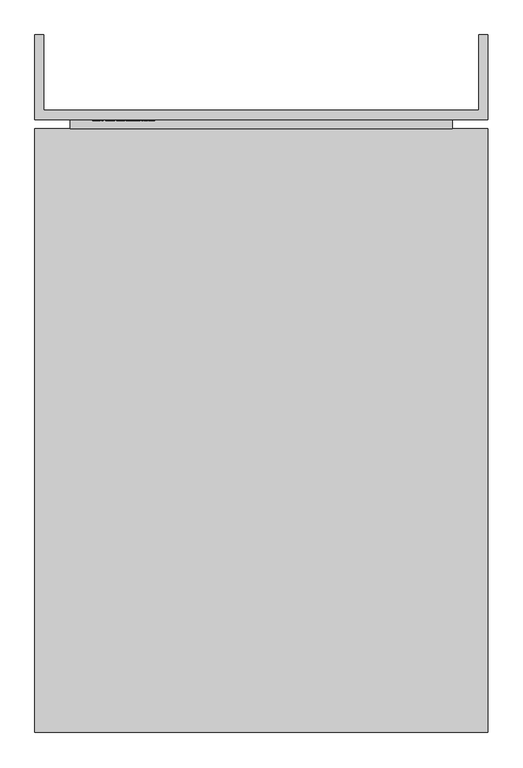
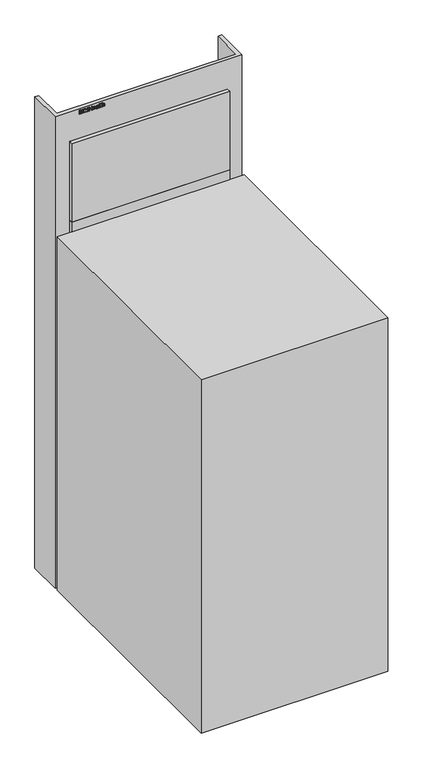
"""IFC4 building model written with IfcOpenShell, lengths in millimetres: furniture geometry, BIMHealth-Washstation-LOD2A-v1 : BIMHealth-Washstation-LOD2A-v1."""

from ifc_helpers import new_model, si_unit, frame, origin, origin_with_axes, place, context, project, spatial, polyline, outline, extrude, source, transform, mapped, element, save


def furniture_3d3374f5(model_context):
    return source(origin(), model_context, "Body", "SweptSolid", [
        extrude(outline(polyline([(2373.0972535, -785.4733843), (2373.0972535, -778.0166535), (2373.4361958, -774.8604035), (2374.4361958, -772.7185766), (2376.3208112, -771.2834804), (2378.9674458, -770.7041535), (2382.0299458, -771.5527112), (2383.8664843, -773.978192), (2385.6092727, -771.9805958), (2387.9097535, -771.3195381), (2390.4289843, -772.1055958), (2392.2102343, -774.2786728), (2392.7895612, -777.9589612), (2392.7895612, -785.4733843), (2373.0972535, -785.4733843)]), holes=[polyline([(2384.7895612, -783.0118458), (2390.3280227, -783.0118458), (2390.3280227, -778.8579997), (2390.0708112, -775.6945381), (2389.121292, -774.2762689), (2387.5155227, -773.7810766), (2385.9121574, -774.3123266), (2385.0010997, -775.8916535), (2384.7895612, -778.5166535), (2384.7895612, -783.0118458)]), polyline([(2375.558792, -783.0118458), (2382.3280227, -783.0118458), (2382.3280227, -778.2041535), (2381.9986958, -775.1632881), (2380.8568689, -773.6368458), (2378.9434074, -773.165692), (2376.1910035, -774.5911728), (2375.6549458, -776.1368458), (2375.558792, -777.9637689), (2375.558792, -783.0118458)])]), frame((0.0, -170.0, 0.0), z_axis=(0.0, 1.0, 0.0), x_axis=(0.0, 0.0, 1.0)), (0.0, 0.0, 1.0), 2.0),
        extrude(outline(polyline([(-764.5503074, -170.0), (-767.0118458, -170.0), (-767.0118458, -168.0), (-764.5503074, -168.0), (-764.5503074, -170.0)])), frame((0.0, 0.0, 2373.0972535), z_axis=(0.0, 0.0, 1.0), x_axis=(1.0, 0.0, 0.0)), (0.0, 0.0, 1.0), 19.6923077),
        extrude(outline(polyline([(2373.0972535, -759.6272304), (2373.0972535, -757.165692), (2390.3280227, -757.165692), (2373.0972535, -752.2137689), (2373.0972535, -748.8820381), (2390.3280227, -743.9349228), (2373.0972535, -743.9349228), (2373.0972535, -741.4733843), (2392.7895612, -741.4733843), (2392.7895612, -745.7089612), (2379.1501381, -749.6704997), (2376.0107151, -750.5503074), (2378.9097535, -751.3676151), (2392.7895612, -755.4060766), (2392.7895612, -759.6272304), (2373.0972535, -759.6272304)])), frame((0.0, -170.0, 0.0), z_axis=(0.0, 1.0, 0.0), x_axis=(0.0, 0.0, 1.0)), (0.0, 0.0, 1.0), 2.0),
        extrude(outline(polyline([(2373.0972535, -737.165692), (2373.0972535, -734.7041535), (2382.3280227, -734.7041535), (2382.3280227, -724.2426151), (2373.0972535, -724.2426151), (2373.0972535, -721.7810766), (2392.7895612, -721.7810766), (2392.7895612, -724.2426151), (2384.7895612, -724.2426151), (2384.7895612, -734.7041535), (2392.7895612, -734.7041535), (2392.7895612, -737.165692), (2373.0972535, -737.165692)])), frame((0.0, -170.0, 0.0), z_axis=(0.0, 1.0, 0.0), x_axis=(0.0, 0.0, 1.0)), (0.0, 0.0, 1.0), 2.0),
        extrude(outline(polyline([(2377.4049458, -707.6560766), (2375.7655227, -709.2426151), (2375.2510997, -711.6560766), (2376.3616766, -714.8267497), (2379.558792, -716.2426151), (2380.2222535, -705.165692), (2385.8616766, -707.0334804), (2387.8664843, -711.8435766), (2385.8568689, -716.7954997), (2380.2078304, -718.7041535), (2374.7390804, -716.8147304), (2372.7895612, -711.7041535), (2373.9193689, -707.4998266), (2377.0972535, -705.2426151), (2377.4049458, -707.6560766)]), holes=[polyline([(2382.0203304, -716.2426151), (2384.4842727, -714.884442), (2385.4049458, -711.853192), (2384.2510997, -708.6128074), (2382.0203304, -707.6272304), (2382.0203304, -716.2426151)])]), frame((0.0, -170.0, 0.0), z_axis=(0.0, 1.0, 0.0), x_axis=(0.0, 0.0, 1.0)), (0.0, 0.0, 1.0), 2.0),
        extrude(outline(polyline([(2374.9434074, -693.4733843), (2373.0972535, -692.8579997), (2373.0972535, -690.3964612), (2375.1669651, -690.8868458), (2379.4434074, -691.0118458), (2382.5059074, -691.0118458), (2384.6597535, -691.1320381), (2386.3304266, -691.8868458), (2387.4289843, -693.571942), (2387.8664843, -696.5551151), (2387.371292, -699.8027112), (2385.9626381, -701.946942), (2383.558792, -703.0118458), (2383.2510997, -700.5503074), (2384.9313881, -699.3628074), (2385.4049458, -696.8724228), (2384.6934074, -694.1512689), (2382.3280227, -693.4878074), (2381.4818689, -697.7570381), (2381.1116766, -699.8868458), (2380.3039843, -701.6104035), (2378.8905227, -702.8483843), (2376.9434074, -703.3195381), (2373.9578304, -702.071942), (2372.7895612, -698.4974228), (2373.2751381, -695.8604035), (2374.9434074, -693.4733843)]), holes=[polyline([(2379.5179266, -693.4805958), (2377.2655227, -693.8772304), (2375.840042, -695.4829997), (2375.2510997, -697.9733843), (2378.7126381, -699.5623266), (2379.1116766, -697.4445381), (2379.5179266, -693.4805958)])]), frame((0.0, -170.0, 0.0), z_axis=(0.0, 1.0, 0.0), x_axis=(0.0, 0.0, 1.0)), (0.0, 0.0, 1.0), 2.0),
        extrude(outline(polyline([(-685.165692, -170.0), (-687.6272304, -170.0), (-687.6272304, -168.0), (-685.165692, -168.0), (-685.165692, -170.0)])), frame((0.0, 0.0, 2373.0972535), z_axis=(0.0, 0.0, 1.0), x_axis=(1.0, 0.0, 0.0)), (0.0, 0.0, 1.0), 19.6923077),
        extrude(outline(polyline([(2376.1429266, -677.4733843), (2385.0972535, -678.7041535), (2385.0972535, -676.2426151), (2387.558792, -676.2426151), (2387.558792, -678.7041535), (2392.5203304, -678.7041535), (2391.0732151, -681.165692), (2387.558792, -681.165692), (2387.558792, -683.0118458), (2385.0972535, -683.0118458), (2385.0972535, -681.165692), (2377.0635997, -681.165692), (2373.1982151, -679.8387689), (2372.7895612, -677.7762689), (2373.0251381, -675.9349228), (2376.1429266, -677.4733843)])), frame((0.0, -170.0, 0.0), z_axis=(0.0, 1.0, 0.0), x_axis=(0.0, 0.0, 1.0)), (0.0, 0.0, 1.0), 2.0),
        extrude(outline(polyline([(2373.0972535, -673.7810766), (2373.0972535, -671.3195381), (2380.7799458, -671.3195381), (2383.371292, -670.9180958), (2384.8568689, -669.571942), (2385.4049458, -667.5551151), (2384.5924458, -665.3339612), (2381.996292, -664.5503074), (2373.0972535, -664.5503074), (2373.0972535, -662.0887689), (2382.2510997, -662.0887689), (2385.4866766, -662.5935766), (2387.2342727, -664.2714612), (2387.8664843, -667.0358843), (2385.5491766, -671.3195381), (2392.7895612, -671.3195381), (2392.7895612, -673.7810766), (2373.0972535, -673.7810766)])), frame((0.0, -170.0, 0.0), z_axis=(0.0, 1.0, 0.0), x_axis=(0.0, 0.0, 1.0)), (0.0, 0.0, 1.0), 2.0),
        extrude(outline(polyline([(-70.0, -168.0), (-70.0, -186.0), (-830.0, -186.0), (-830.0, -168.0), (-70.0, -168.0)])), frame((0.0, 0.0, 1850.0), z_axis=(0.0, 0.0, 1.0), x_axis=(1.0, 0.0, 0.0)), (0.0, 0.0, 1.0), 400.0),
        extrude(outline(polyline([(-70.0, -168.0), (-70.0, -186.0), (-830.0, -186.0), (-830.0, -168.0), (-70.0, -168.0)])), frame((0.0, 0.0, 1200.0), z_axis=(0.0, 0.0, 1.0), x_axis=(1.0, 0.0, 0.0)), (0.0, 0.0, 1.0), 650.0),
        extrude(outline(polyline([(-70.0, -168.0), (-70.0, -186.0), (-830.0, -186.0), (-830.0, -168.0), (-70.0, -168.0)])), frame((0.0, 0.0, 550.0), z_axis=(0.0, 0.0, 1.0), x_axis=(1.0, 0.0, 0.0)), (0.0, 0.0, 1.0), 650.0),
        extrude(outline(polyline([(-70.0, -168.0), (-70.0, -186.0), (-830.0, -186.0), (-830.0, -168.0), (-70.0, -168.0)])), frame((0.0, 0.0, 150.0), z_axis=(0.0, 0.0, 1.0), x_axis=(1.0, 0.0, 0.0)), (0.0, 0.0, 1.0), 400.0),
        extrude(outline(polyline([(-900.0, -168.0), (-900.0, 0.0), (-882.0, 0.0), (-882.0, -150.0), (-18.0, -150.0), (-18.0, 0.0), (0.0, 0.0), (0.0, -168.0), (-900.0, -168.0)])), origin_with_axes(), (0.0, 0.0, 1.0), 2400.0),
        extrude(outline(polyline([(0.0, -186.0), (0.0, -1386.0), (-900.0, -1386.0), (-900.0, -186.0), (0.0, -186.0)])), origin_with_axes(), (0.0, 0.0, 1.0), 1800.0),
        extrude(outline(polyline([(-708.1450767, -586.0), (-708.1450767, -186.0), (-150.0, -186.0), (-150.0, -586.0), (-708.1450767, -586.0)])), origin_with_axes(), (0.0, 0.0, 1.0), 600.0),
    ])


if __name__ == "__main__":
    model = new_model("IFC4")
    model_context = context("Model", 3, world=origin())
    ifc_project = project(units=[si_unit("LENGTHUNIT", "METRE", prefix="MILLI")], contexts=[model_context])
    site = spatial("IfcSite", under=ifc_project)
    building = spatial("IfcBuilding", under=site)
    placement = place(None, origin())
    furniture_shape = furniture_3d3374f5(model_context)
    element("IfcFurniture", 1, ObjectType="BIMHealth-Washstation-LOD2A-v1 : BIMHealth-Washstation-LOD2A-v1", at=placement, inside=building, context=model_context, shape_type="MappedRepresentation", body=[
        mapped(furniture_shape, transform((0.0, 0.0, 0.0), x_axis=(1.0, 0.0, 0.0), y_axis=(0.0, 1.0, 0.0), z_axis=(0.0, 0.0, 1.0))),
    ])
    save(model, "model.ifc")
